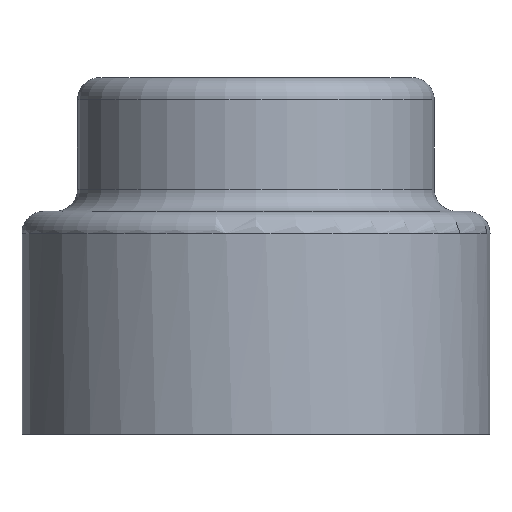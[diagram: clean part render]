
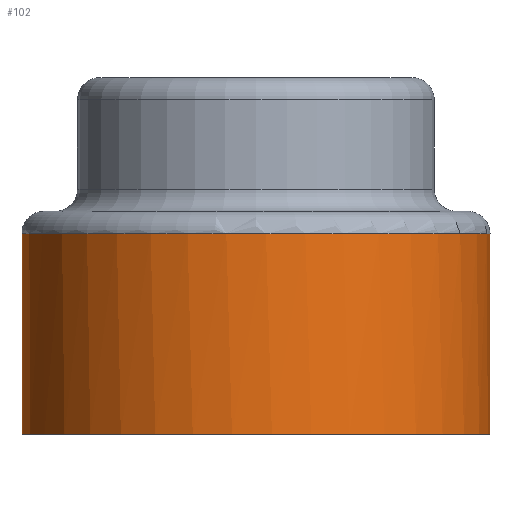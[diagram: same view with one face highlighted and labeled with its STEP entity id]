
A CAD part, front view. The second image highlights one B-rep face of the part: STEP entity #102.
In plain terms, the highlighted cylindrical face has radius 10.5 mm (diameter 21 mm), a full revolution.
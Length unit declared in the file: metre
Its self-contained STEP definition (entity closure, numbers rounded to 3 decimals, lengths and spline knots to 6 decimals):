
#102 = ADVANCED_FACE( '', ( #212, #213 ), #214, .T. );
#212 = FACE_OUTER_BOUND( '', #327, .T. );
#213 = FACE_OUTER_BOUND( '', #328, .T. );
#214 = CYLINDRICAL_SURFACE( '', #329, 0.0105 );
#327 = EDGE_LOOP( '', ( #546, #547, #548, #549, #550, #551, #552 ) );
#328 = EDGE_LOOP( '', ( #553 ) );
#329 = AXIS2_PLACEMENT_3D( '', #554, #555, #556 );
#546 = ORIENTED_EDGE( '', *, *, #666, .T. );
#547 = ORIENTED_EDGE( '', *, *, #674, .T. );
#548 = ORIENTED_EDGE( '', *, *, #699, .T. );
#549 = ORIENTED_EDGE( '', *, *, #685, .T. );
#550 = ORIENTED_EDGE( '', *, *, #628, .T. );
#551 = ORIENTED_EDGE( '', *, *, #669, .T. );
#552 = ORIENTED_EDGE( '', *, *, #647, .T. );
#553 = ORIENTED_EDGE( '', *, *, #696, .T. );
#554 = CARTESIAN_POINT( '', ( 0., 0., 0.008 ) );
#555 = DIRECTION( '', ( 0., 0., 1. ) );
#556 = DIRECTION( '', ( -1., 0., 0. ) );
#628 = EDGE_CURVE( '', #733, #731, #734, .T. );
#647 = EDGE_CURVE( '', #766, #764, #767, .F. );
#666 = EDGE_CURVE( '', #764, #792, #793, .T. );
#669 = EDGE_CURVE( '', #731, #766, #796, .F. );
#674 = EDGE_CURVE( '', #792, #802, #803, .T. );
#685 = EDGE_CURVE( '', #818, #733, #819, .T. );
#696 = EDGE_CURVE( '', #833, #833, #834, .F. );
#699 = EDGE_CURVE( '', #802, #818, #837, .T. );
#731 = VERTEX_POINT( '', #877 );
#733 = VERTEX_POINT( '', #879 );
#734 = CIRCLE( '', #880, 0.0105 );
#764 = VERTEX_POINT( '', #929 );
#766 = VERTEX_POINT( '', #931 );
#767 = B_SPLINE_CURVE_WITH_KNOTS( '', 3, ( #932, #933, #934, #935, #936, #937, #938, #939, #940, #941 ), .UNSPECIFIED., .F., .F., ( 4, 2, 2, 2, 4 ), ( 0., 0.000421, 0.000842, 0.001263, 0.001684 ), .UNSPECIFIED. );
#792 = VERTEX_POINT( '', #977 );
#793 = CIRCLE( '', #978, 0.0105 );
#796 = LINE( '', #982, #983 );
#802 = VERTEX_POINT( '', #993 );
#803 = B_SPLINE_CURVE_WITH_KNOTS( '', 3, ( #994, #995, #996, #997, #998, #999, #1000, #1001 ), .UNSPECIFIED., .F., .F., ( 4, 2, 2, 4 ), ( 0., 0.000702, 0.001053, 0.001404 ), .UNSPECIFIED. );
#818 = VERTEX_POINT( '', #1019 );
#819 = LINE( '', #1020, #1021 );
#833 = VERTEX_POINT( '', #1037 );
#834 = CIRCLE( '', #1038, 0.0105 );
#837 = B_SPLINE_CURVE_WITH_KNOTS( '', 3, ( #1041, #1042, #1043, #1044 ), .UNSPECIFIED., .F., .F., ( 4, 4 ), ( 0., 0.000558 ), .UNSPECIFIED. );
#877 = CARTESIAN_POINT( '', ( 0.008963, 0.005469, 0. ) );
#879 = CARTESIAN_POINT( '', ( 0.006915, 0.007902, 0. ) );
#880 = AXIS2_PLACEMENT_3D( '', #1083, #1084, #1085 );
#929 = CARTESIAN_POINT( '', ( 0.008256, 0.006487, 0.008 ) );
#931 = CARTESIAN_POINT( '', ( 0.008963, 0.005469, 0.007 ) );
#932 = CARTESIAN_POINT( '', ( 0.008256, 0.006487, 0.008 ) );
#933 = CARTESIAN_POINT( '', ( 0.008344, 0.006375, 0.008 ) );
#934 = CARTESIAN_POINT( '', ( 0.008428, 0.006263, 0.007972 ) );
#935 = CARTESIAN_POINT( '', ( 0.008581, 0.006053, 0.007866 ) );
#936 = CARTESIAN_POINT( '', ( 0.008649, 0.005954, 0.007789 ) );
#937 = CARTESIAN_POINT( '', ( 0.008766, 0.005781, 0.007601 ) );
#938 = CARTESIAN_POINT( '', ( 0.008814, 0.005706, 0.00749 ) );
#939 = CARTESIAN_POINT( '', ( 0.008896, 0.005578, 0.007252 ) );
#940 = CARTESIAN_POINT( '', ( 0.00893, 0.005523, 0.007125 ) );
#941 = CARTESIAN_POINT( '', ( 0.008963, 0.005469, 0.007 ) );
#977 = CARTESIAN_POINT( '', ( 0.008, 0.006801, 0.008 ) );
#978 = AXIS2_PLACEMENT_3D( '', #1128, #1129, #1130 );
#982 = CARTESIAN_POINT( '', ( 0.008963, 0.005469, 0.008 ) );
#983 = VECTOR( '', #1132, 1. );
#993 = CARTESIAN_POINT( '', ( 0.007124, 0.007714, 0.007482 ) );
#994 = CARTESIAN_POINT( '', ( 0.008, 0.006801, 0.008 ) );
#995 = CARTESIAN_POINT( '', ( 0.007846, 0.006982, 0.008 ) );
#996 = CARTESIAN_POINT( '', ( 0.00769, 0.007153, 0.007967 ) );
#997 = CARTESIAN_POINT( '', ( 0.007456, 0.007394, 0.007844 ) );
#998 = CARTESIAN_POINT( '', ( 0.007381, 0.007468, 0.007792 ) );
#999 = CARTESIAN_POINT( '', ( 0.007241, 0.007605, 0.007658 ) );
#1000 = CARTESIAN_POINT( '', ( 0.007176, 0.007665, 0.007577 ) );
#1001 = CARTESIAN_POINT( '', ( 0.007124, 0.007714, 0.007482 ) );
#1019 = CARTESIAN_POINT( '', ( 0.006915, 0.007902, 0.007 ) );
#1020 = CARTESIAN_POINT( '', ( 0.006915, 0.007902, 0.008 ) );
#1021 = VECTOR( '', #1149, 1. );
#1037 = CARTESIAN_POINT( '', ( 0.0105, 0., 0.009 ) );
#1038 = AXIS2_PLACEMENT_3D( '', #1164, #1165, #1166 );
#1041 = CARTESIAN_POINT( '', ( 0.007124, 0.007714, 0.007482 ) );
#1042 = CARTESIAN_POINT( '', ( 0.007042, 0.00779, 0.007333 ) );
#1043 = CARTESIAN_POINT( '', ( 0.006978, 0.007846, 0.007166 ) );
#1044 = CARTESIAN_POINT( '', ( 0.006915, 0.007902, 0.007 ) );
#1083 = CARTESIAN_POINT( '', ( 0., 0., 0. ) );
#1084 = DIRECTION( '', ( 0., 0., 1. ) );
#1085 = DIRECTION( '', ( 1., 0., 0. ) );
#1128 = CARTESIAN_POINT( '', ( 0., 0., 0.008 ) );
#1129 = DIRECTION( '', ( 0., 0., 1. ) );
#1130 = DIRECTION( '', ( 1., 0., 0. ) );
#1132 = DIRECTION( '', ( 0., 0., -1. ) );
#1149 = DIRECTION( '', ( 0., 0., -1. ) );
#1164 = CARTESIAN_POINT( '', ( 0., 0., 0.009 ) );
#1165 = DIRECTION( '', ( 0., 0., 1. ) );
#1166 = DIRECTION( '', ( 1., 0., 0. ) );
